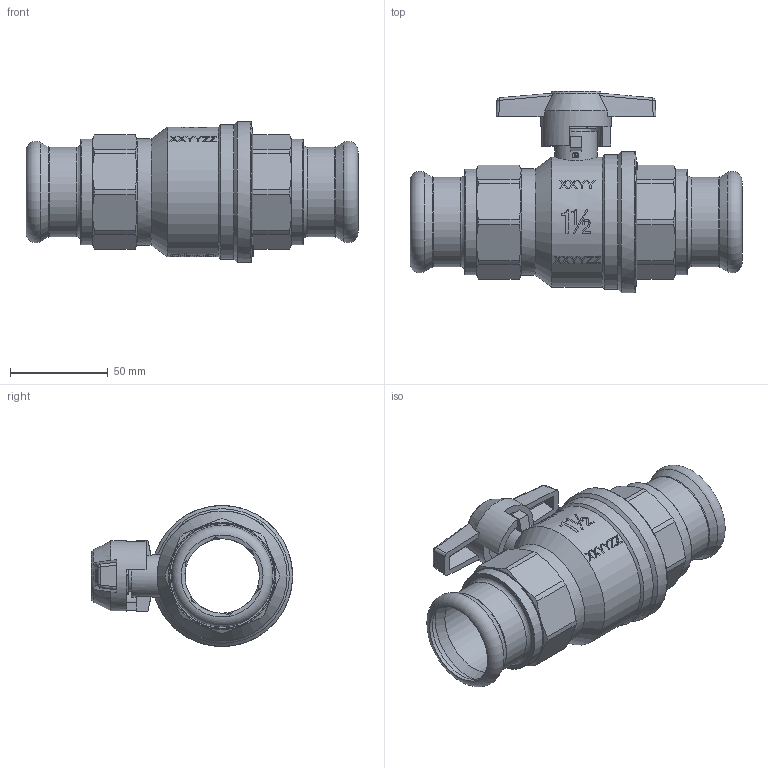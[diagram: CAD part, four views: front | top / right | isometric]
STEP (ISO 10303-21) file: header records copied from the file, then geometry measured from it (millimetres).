
FILE_DESCRIPTION((''),'2;1');
FILE_NAME('P:\Fastrack\53972_CRANE 3D\Press Fit\HATTERSLEY\100-TH\42MM\Fig_100TH-PF-42MM.stp','2011-11-30T12:01:36',('dcole'),(''),'Autodesk Inventor 2008','Autodesk Inventor 2008','');
FILE_SCHEMA(('AUTOMOTIVE_DESIGN { 1 0 10303 214 1 1 1 1 }'));
Length unit declared in the file: millimetre
Products named in the file (1): Fig_100TH-PF-42MM
Bounding box: 170.2 x 103.15 x 72.3 mm (x, y, z)
Volume: 210346.6 mm3; surface area: 99242.1 mm2
Topology: 1 solids, 8 shells, 817 faces, 2292 edges, 1562 vertices
Faces by surface type: plane 377, bspline 214, cylinder 123, cone 83, torus 13, sphere 7
Full cylindrical faces by diameter (mm): 3 x1, 12 x2, 12.1 x2, 12.5 x1, 13 x1, 13.5 x1, 16 x1, 16.3 x1, 16.5 x2, 22 x1, 28 x1, 30 x1, 36 x1, 39.5 x3, 39.7 x2, 42 x4, 44.6 x2, 44.845 x1, 44.854 x1, 46 x2, 48.55 x2, 49 x2, 50 x4, 54 x2, 54.5 x1, 57.5 x1, 62 x1, 64 x1, 64.2 x1, 66.6 x1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
Entity records: 54005 total; most frequent: CARTESIAN_POINT 34112, ORIENTED_EDGE 4228, DIRECTION 3250, EDGE_CURVE 2114, VERTEX_POINT 1503, AXIS2_PLACEMENT_3D 1140, EDGE_LOOP 1037, VECTOR 970
